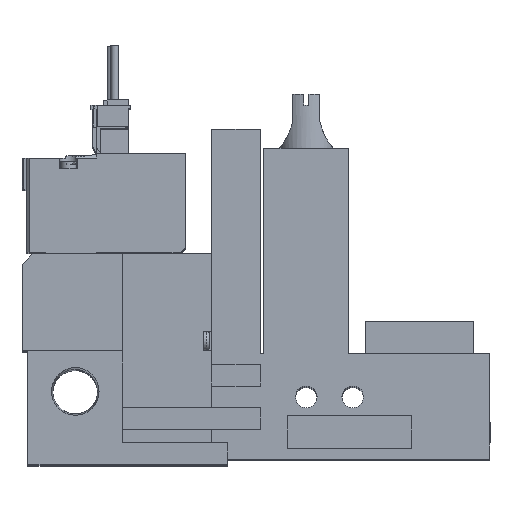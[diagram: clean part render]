
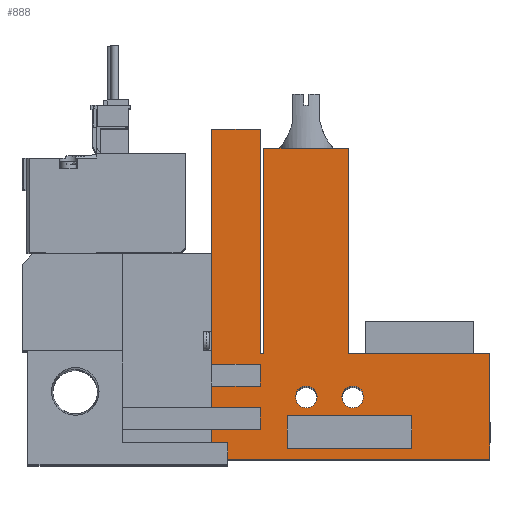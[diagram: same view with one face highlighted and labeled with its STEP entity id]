
A CAD part, top view. The second image highlights one B-rep face of the part: STEP entity #888.
In plain terms, the highlighted planar face has unit normal (0, 0, 1).
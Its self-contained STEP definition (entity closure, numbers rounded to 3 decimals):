
#888=ADVANCED_FACE('',(#1724,#1725,#1726,#1727),#1728,.T.);
#1724=FACE_OUTER_BOUND('',#2871,.T.);
#1725=FACE_BOUND('',#2872,.T.);
#1726=FACE_BOUND('',#2873,.T.);
#1727=FACE_BOUND('',#2874,.T.);
#1728=PLANE('',#2875);
#2871=EDGE_LOOP('',(#5905,#5906,#5907,#5908,#5909,#5910,#5911,#5912,#5913,#5914,#5915,#5916,#5917,#5918,#5919,#5920,#5921,#5922));
#2872=EDGE_LOOP('',(#5923,#5924,#5925,#5926));
#2873=EDGE_LOOP('',(#5927));
#2874=EDGE_LOOP('',(#5928));
#2875=AXIS2_PLACEMENT_3D('',#5929,#5930,#5931);
#5905=ORIENTED_EDGE('',*,*,#7959,.T.);
#5906=ORIENTED_EDGE('',*,*,#7960,.T.);
#5907=ORIENTED_EDGE('',*,*,#7937,.T.);
#5908=ORIENTED_EDGE('',*,*,#7862,.T.);
#5909=ORIENTED_EDGE('',*,*,#7892,.T.);
#5910=ORIENTED_EDGE('',*,*,#7925,.T.);
#5911=ORIENTED_EDGE('',*,*,#7914,.T.);
#5912=ORIENTED_EDGE('',*,*,#7922,.T.);
#5913=ORIENTED_EDGE('',*,*,#7839,.T.);
#5914=ORIENTED_EDGE('',*,*,#7961,.T.);
#5915=ORIENTED_EDGE('',*,*,#7918,.T.);
#5916=ORIENTED_EDGE('',*,*,#7876,.T.);
#5917=ORIENTED_EDGE('',*,*,#7885,.T.);
#5918=ORIENTED_EDGE('',*,*,#7962,.T.);
#5919=ORIENTED_EDGE('',*,*,#7916,.T.);
#5920=ORIENTED_EDGE('',*,*,#7924,.T.);
#5921=ORIENTED_EDGE('',*,*,#7867,.T.);
#5922=ORIENTED_EDGE('',*,*,#7864,.T.);
#5923=ORIENTED_EDGE('',*,*,#7934,.T.);
#5924=ORIENTED_EDGE('',*,*,#7963,.T.);
#5925=ORIENTED_EDGE('',*,*,#7951,.T.);
#5926=ORIENTED_EDGE('',*,*,#7832,.T.);
#5927=ORIENTED_EDGE('',*,*,#7940,.T.);
#5928=ORIENTED_EDGE('',*,*,#7946,.T.);
#5929=CARTESIAN_POINT('',(0.0,0.0,10.0));
#5930=DIRECTION('',(0.0,0.0,1.0));
#5931=DIRECTION('',(1.0,0.0,0.0));
#7832=EDGE_CURVE('',#9475,#9480,#9482,.T.);
#7839=EDGE_CURVE('',#9490,#9494,#9496,.T.);
#7862=EDGE_CURVE('',#9532,#9538,#9540,.T.);
#7864=EDGE_CURVE('',#9543,#9541,#9544,.T.);
#7867=EDGE_CURVE('',#9548,#9543,#9549,.T.);
#7876=EDGE_CURVE('',#9564,#9562,#9565,.T.);
#7885=EDGE_CURVE('',#9562,#9577,#9579,.T.);
#7892=EDGE_CURVE('',#9538,#9587,#9589,.T.);
#7914=EDGE_CURVE('',#9621,#9623,#9625,.T.);
#7916=EDGE_CURVE('',#9628,#9626,#9629,.T.);
#7918=EDGE_CURVE('',#9631,#9564,#9632,.T.);
#7922=EDGE_CURVE('',#9623,#9490,#9638,.T.);
#7924=EDGE_CURVE('',#9626,#9548,#9640,.T.);
#7925=EDGE_CURVE('',#9587,#9621,#9641,.T.);
#7934=EDGE_CURVE('',#9480,#9650,#9652,.T.);
#7937=EDGE_CURVE('',#9653,#9532,#9657,.T.);
#7940=EDGE_CURVE('',#9662,#9662,#9663,.T.);
#7946=EDGE_CURVE('',#9670,#9670,#9671,.T.);
#7951=EDGE_CURVE('',#9676,#9475,#9680,.T.);
#7959=EDGE_CURVE('',#9541,#9690,#9691,.T.);
#7960=EDGE_CURVE('',#9690,#9653,#9692,.T.);
#7961=EDGE_CURVE('',#9494,#9631,#9693,.T.);
#7962=EDGE_CURVE('',#9577,#9628,#9694,.T.);
#7963=EDGE_CURVE('',#9650,#9676,#9695,.T.);
#9475=VERTEX_POINT('',#12143);
#9480=VERTEX_POINT('',#12150);
#9482=LINE('',#12153,#12154);
#9490=VERTEX_POINT('',#12162);
#9494=VERTEX_POINT('',#12168);
#9496=LINE('',#12171,#12172);
#9532=VERTEX_POINT('',#12226);
#9538=VERTEX_POINT('',#12235);
#9540=LINE('',#12238,#12239);
#9541=VERTEX_POINT('',#12240);
#9543=VERTEX_POINT('',#12243);
#9544=LINE('',#12244,#12245);
#9548=VERTEX_POINT('',#12250);
#9549=LINE('',#12251,#12252);
#9562=VERTEX_POINT('',#12272);
#9564=VERTEX_POINT('',#12275);
#9565=LINE('',#12276,#12277);
#9577=VERTEX_POINT('',#12296);
#9579=LINE('',#12299,#12300);
#9587=VERTEX_POINT('',#12313);
#9589=LINE('',#12316,#12317);
#9621=VERTEX_POINT('',#12367);
#9623=VERTEX_POINT('',#12370);
#9625=LINE('',#12373,#12374);
#9626=VERTEX_POINT('',#12375);
#9628=VERTEX_POINT('',#12378);
#9629=LINE('',#12379,#12380);
#9631=VERTEX_POINT('',#12383);
#9632=LINE('',#12384,#12385);
#9638=LINE('',#12393,#12394);
#9640=LINE('',#12397,#12398);
#9641=LINE('',#12399,#12400);
#9650=VERTEX_POINT('',#12416);
#9652=LINE('',#12419,#12420);
#9653=VERTEX_POINT('',#12421);
#9657=LINE('',#12427,#12428);
#9662=VERTEX_POINT('',#12433);
#9663=CIRCLE('',#12434,2.0);
#9670=VERTEX_POINT('',#12445);
#9671=CIRCLE('',#12446,2.0);
#9676=VERTEX_POINT('',#12451);
#9680=LINE('',#12457,#12458);
#9690=VERTEX_POINT('',#12475);
#9691=LINE('',#12476,#12477);
#9692=LINE('',#12478,#12479);
#9693=LINE('',#12480,#12481);
#9694=LINE('',#12482,#12483);
#9695=LINE('',#12484,#12485);
#12143=CARTESIAN_POINT('',(72.1,2.0,10.0));
#12150=CARTESIAN_POINT('',(49.1,2.0,10.0));
#12153=CARTESIAN_POINT('',(0.0,2.0,10.0));
#12154=VECTOR('',#14359,1.0);
#12162=CARTESIAN_POINT('',(35.1,5.5,10.0));
#12168=CARTESIAN_POINT('',(35.1,0.0,10.0));
#12171=CARTESIAN_POINT('',(35.1,0.0,10.0));
#12172=VECTOR('',#14372,1.0);
#12226=CARTESIAN_POINT('',(44.1,13.5,10.0));
#12235=CARTESIAN_POINT('',(35.1,13.5,10.0));
#12238=CARTESIAN_POINT('',(0.0,13.5,10.0));
#12239=VECTOR('',#14395,1.0);
#12240=CARTESIAN_POINT('',(35.1,61.0,10.0));
#12243=CARTESIAN_POINT('',(44.1,61.0,10.0));
#12244=CARTESIAN_POINT('',(44.1,61.0,10.0));
#12245=VECTOR('',#14397,1.0);
#12250=CARTESIAN_POINT('',(44.1,19.5,10.0));
#12251=CARTESIAN_POINT('',(44.1,19.5,10.0));
#12252=VECTOR('',#14402,1.0);
#12272=CARTESIAN_POINT('',(60.45,19.5,10.0));
#12275=CARTESIAN_POINT('',(86.6,19.5,10.0));
#12276=CARTESIAN_POINT('',(86.6,19.5,10.0));
#12277=VECTOR('',#14411,1.0);
#12296=CARTESIAN_POINT('',(60.45,57.5,10.0));
#12299=CARTESIAN_POINT('',(60.45,19.5,10.0));
#12300=VECTOR('',#14420,1.0);
#12313=CARTESIAN_POINT('',(35.1,9.5,10.0));
#12316=CARTESIAN_POINT('',(35.1,0.0,10.0));
#12317=VECTOR('',#14427,1.0);
#12367=CARTESIAN_POINT('',(44.1,9.5,10.0));
#12370=CARTESIAN_POINT('',(44.1,5.5,10.0));
#12373=CARTESIAN_POINT('',(44.1,0.0,10.0));
#12374=VECTOR('',#14451,1.0);
#12375=CARTESIAN_POINT('',(44.75,19.5,10.0));
#12378=CARTESIAN_POINT('',(44.75,57.5,10.0));
#12379=CARTESIAN_POINT('',(44.75,57.5,10.0));
#12380=VECTOR('',#14453,1.0);
#12383=CARTESIAN_POINT('',(86.6,0.0,10.0));
#12384=CARTESIAN_POINT('',(86.6,0.0,10.0));
#12385=VECTOR('',#14455,1.0);
#12393=CARTESIAN_POINT('',(0.0,5.5,10.0));
#12394=VECTOR('',#14461,1.0);
#12397=CARTESIAN_POINT('',(44.75,19.5,10.0));
#12398=VECTOR('',#14463,1.0);
#12399=CARTESIAN_POINT('',(0.0,9.5,10.0));
#12400=VECTOR('',#14464,1.0);
#12416=CARTESIAN_POINT('',(49.1,8.0,10.0));
#12419=CARTESIAN_POINT('',(49.1,0.0,10.0));
#12420=VECTOR('',#14473,1.0);
#12421=CARTESIAN_POINT('',(44.1,17.5,10.0));
#12427=CARTESIAN_POINT('',(44.1,0.0,10.0));
#12428=VECTOR('',#14476,1.0);
#12433=CARTESIAN_POINT('',(54.6,11.5,10.0));
#12434=AXIS2_PLACEMENT_3D('',#14483,#14484,#14485);
#12445=CARTESIAN_POINT('',(63.2,11.5,10.0));
#12446=AXIS2_PLACEMENT_3D('',#14493,#14494,#14495);
#12451=CARTESIAN_POINT('',(72.1,8.0,10.0));
#12457=CARTESIAN_POINT('',(72.1,0.0,10.0));
#12458=VECTOR('',#14504,1.0);
#12475=CARTESIAN_POINT('',(35.1,17.5,10.0));
#12476=CARTESIAN_POINT('',(35.1,61.0,10.0));
#12477=VECTOR('',#14512,1.0);
#12478=CARTESIAN_POINT('',(0.0,17.5,10.0));
#12479=VECTOR('',#14513,1.0);
#12480=CARTESIAN_POINT('',(18.6,0.0,10.0));
#12481=VECTOR('',#14514,1.0);
#12482=CARTESIAN_POINT('',(60.45,57.5,10.0));
#12483=VECTOR('',#14515,1.0);
#12484=CARTESIAN_POINT('',(0.0,8.0,10.0));
#12485=VECTOR('',#14516,1.0);
#14359=DIRECTION('',(-1.0,0.0,0.0));
#14372=DIRECTION('',(0.0,-1.0,0.0));
#14395=DIRECTION('',(-1.0,0.0,0.0));
#14397=DIRECTION('',(-1.0,0.0,0.0));
#14402=DIRECTION('',(0.0,1.0,0.0));
#14411=DIRECTION('',(-1.0,0.0,0.0));
#14420=DIRECTION('',(0.0,1.0,0.0));
#14427=DIRECTION('',(0.0,-1.0,0.0));
#14451=DIRECTION('',(0.0,-1.0,0.0));
#14453=DIRECTION('',(0.0,-1.0,0.0));
#14455=DIRECTION('',(0.0,1.0,0.0));
#14461=DIRECTION('',(-1.0,0.0,0.0));
#14463=DIRECTION('',(-1.0,0.0,0.0));
#14464=DIRECTION('',(1.0,0.0,0.0));
#14473=DIRECTION('',(0.0,1.0,0.0));
#14476=DIRECTION('',(0.0,-1.0,0.0));
#14483=CARTESIAN_POINT('',(52.6,11.5,10.0));
#14484=DIRECTION('',(0.0,0.0,-1.0));
#14485=DIRECTION('',(1.0,0.0,0.0));
#14493=CARTESIAN_POINT('',(61.2,11.5,10.0));
#14494=DIRECTION('',(0.0,0.0,-1.0));
#14495=DIRECTION('',(1.0,0.0,0.0));
#14504=DIRECTION('',(0.0,-1.0,0.0));
#14512=DIRECTION('',(0.0,-1.0,0.0));
#14513=DIRECTION('',(1.0,0.0,0.0));
#14514=DIRECTION('',(1.0,0.0,0.0));
#14515=DIRECTION('',(-1.0,0.0,0.0));
#14516=DIRECTION('',(1.0,0.0,0.0));
